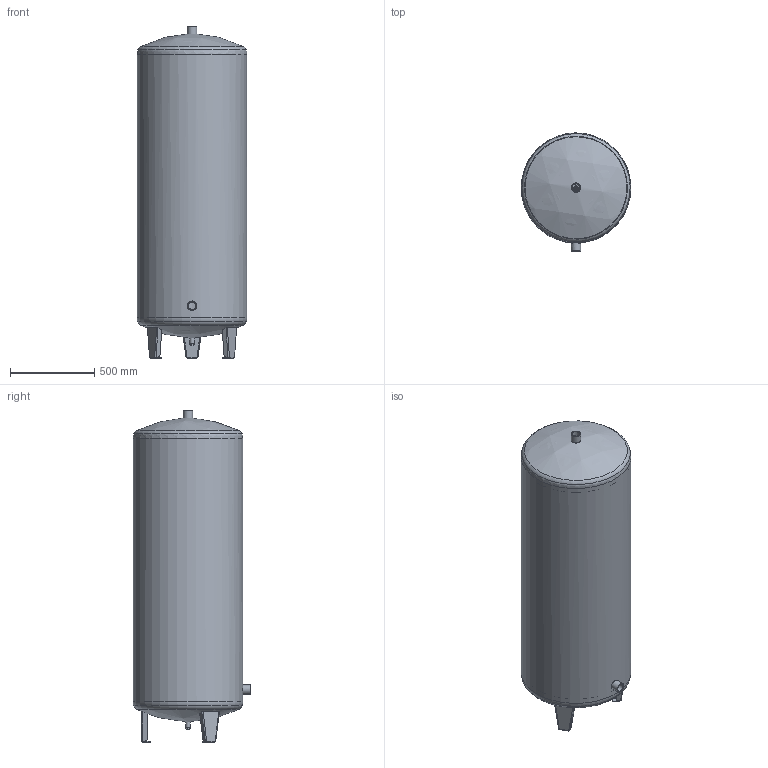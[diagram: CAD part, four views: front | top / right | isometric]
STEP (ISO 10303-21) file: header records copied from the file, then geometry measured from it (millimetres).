
FILE_DESCRIPTION((''),'2;1');
FILE_NAME('C:\Vault\Inventor\Expansion\elko-mat\EV\EV 500\EV500-10-110.stp','2012-06-11T14:17:02',('Walder'),(''),'Autodesk Inventor 11','Autodesk Inventor 11','');
FILE_SCHEMA(('AUTOMOTIVE_DESIGN { 1 0 10303 214 1 1 1 1 }'));
Length unit declared in the file: millimetre
Products named in the file (1): EV500-10-110
Bounding box: 649.9 x 698 x 1967.56 mm (x, y, z)
Volume: 21113259.8 mm3; surface area: 8154909.3 mm2
Topology: 4 solids, 4 shells, 432 faces, 1044 edges, 637 vertices
Faces by surface type: plane 195, cylinder 114, bspline 113, torus 5, cone 3, sphere 2
Full cylindrical faces by diameter (mm): 14 x1, 20.96 x1, 27 x1, 47.8 x1, 56 x2, 638 x2, 640 x1, 650 x1
Entity records: 18992 total; most frequent: CARTESIAN_POINT 9706, ORIENTED_EDGE 2026, DIRECTION 1629, EDGE_CURVE 1013, VERTEX_POINT 631, VECTOR 587, LINE 587, AXIS2_PLACEMENT_3D 521
